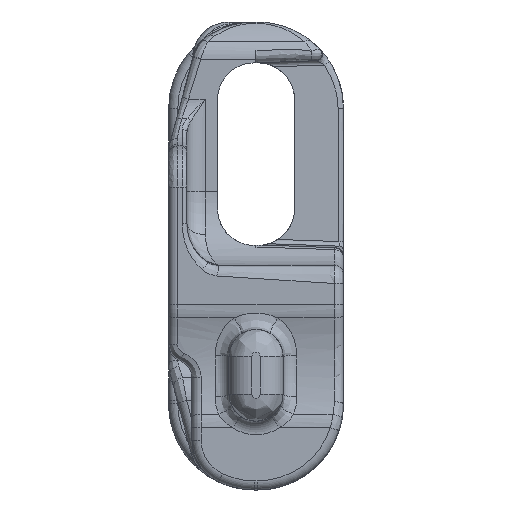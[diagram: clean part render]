
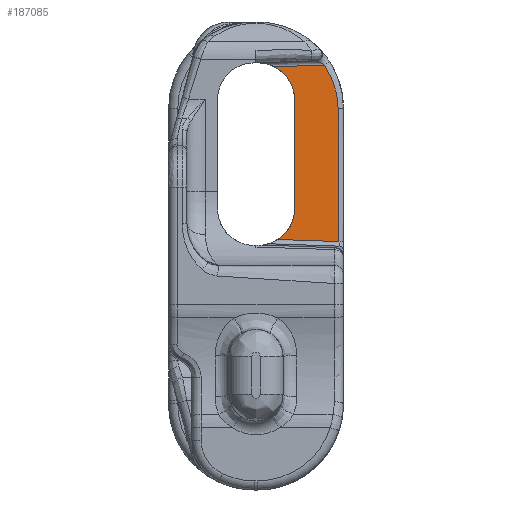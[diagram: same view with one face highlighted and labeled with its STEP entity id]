
A CAD part, left-side view. The second image highlights one B-rep face of the part: STEP entity #187085.
In plain terms, the highlighted planar face has unit normal (-0.999, -0.035, 0).
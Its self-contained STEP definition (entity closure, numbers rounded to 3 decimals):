
#52898=CARTESIAN_POINT('',(-163.38,-2.004,
22.62));
#55106=DIRECTION('',(0.,0.,1.));
#55107=VECTOR('',#55106,11.9);
#55108=CARTESIAN_POINT('',(-163.303,-4.2,
7.15));
#55109=LINE('',#55108,#55107);
#55110=CARTESIAN_POINT('',(-163.303,-4.2,
19.05));
#55111=CARTESIAN_POINT('',(-163.303,-4.2,
19.164));
#55112=CARTESIAN_POINT('',(-163.304,-4.19,
19.39));
#55113=CARTESIAN_POINT('',(-163.305,-4.147,
19.727));
#55114=CARTESIAN_POINT('',(-163.308,-4.076,
20.059));
#55115=CARTESIAN_POINT('',(-163.311,-3.976,
20.384));
#55116=CARTESIAN_POINT('',(-163.316,-3.85,
20.699));
#55117=CARTESIAN_POINT('',(-163.321,-3.697,
21.002));
#55118=CARTESIAN_POINT('',(-163.327,-3.519,
21.291));
#55119=CARTESIAN_POINT('',(-163.334,-3.317,21.565));
#55120=CARTESIAN_POINT('',(-163.342,-3.093,
21.82));
#55121=CARTESIAN_POINT('',(-163.351,-2.848,
22.055));
#55122=CARTESIAN_POINT('',(-163.36,-2.584,
22.268));
#55123=CARTESIAN_POINT('',(-163.37,-2.302,
22.459));
#55124=CARTESIAN_POINT('',(-163.376,-2.105,
22.569));
#55125=CARTESIAN_POINT('',(-163.38,-2.004,
22.62));
#55127=DIRECTION('',(0.035,-0.999,0.035));
#55128=VECTOR('',#55127,5.475);
#55129=CARTESIAN_POINT('',(-163.38,-2.004,
22.62));
#55130=LINE('',#55129,#55128);
#55131=CARTESIAN_POINT('',(-163.189,-7.472,
22.811));
#55132=CARTESIAN_POINT('',(-163.173,-7.928,
22.115));
#55133=CARTESIAN_POINT('',(-163.148,-8.658,
20.601));
#55134=CARTESIAN_POINT('',(-163.138,-8.939,
18.936));
#55135=CARTESIAN_POINT('',(-163.137,-8.952,
18.1));
#55137=CARTESIAN_POINT('',(-163.137,-8.952,
18.1));
#55138=CARTESIAN_POINT('',(-163.136,-8.987,
15.68));
#55139=CARTESIAN_POINT('',(-163.134,-9.039,
10.839));
#55140=CARTESIAN_POINT('',(-163.134,-9.043,
5.998));
#55141=CARTESIAN_POINT('',(-163.134,-9.042,
3.578));
#55143=DIRECTION('',(-0.035,0.999,0.034));
#55144=VECTOR('',#55143,6.661);
#55145=CARTESIAN_POINT('',(-163.134,-9.042,
3.578));
#55146=LINE('',#55145,#55144);
#55147=CARTESIAN_POINT('',(-163.367,-2.389,
3.802));
#55148=CARTESIAN_POINT('',(-163.363,-2.49,
3.868));
#55149=CARTESIAN_POINT('',(-163.356,-2.685,
4.008));
#55150=CARTESIAN_POINT('',(-163.347,-2.958,
4.245));
#55151=CARTESIAN_POINT('',(-163.338,-3.208,
4.505));
#55152=CARTESIAN_POINT('',(-163.33,-3.434,
4.786));
#55153=CARTESIAN_POINT('',(-163.323,-3.633,
5.087));
#55154=CARTESIAN_POINT('',(-163.317,-3.805,
5.405));
#55155=CARTESIAN_POINT('',(-163.312,-3.948,
5.736));
#55156=CARTESIAN_POINT('',(-163.308,-4.06,
6.079));
#55157=CARTESIAN_POINT('',(-163.305,-4.14,
6.431));
#55158=CARTESIAN_POINT('',(-163.304,-4.189,
6.789));
#55159=CARTESIAN_POINT('',(-163.303,-4.2,
7.029));
#55160=CARTESIAN_POINT('',(-163.303,-4.2,
7.15));
#55166=CARTESIAN_POINT('',(-163.137,-8.952,
18.1));
#55168=CARTESIAN_POINT('',(-163.189,-7.472,
22.811));
#55176=CARTESIAN_POINT('',(-163.134,-9.042,
3.578));
#69993=CARTESIAN_POINT('',(-163.303,-4.2,
19.05));
#69994=VERTEX_POINT('',#69993);
#69995=CARTESIAN_POINT('',(-163.303,-4.2,
7.15));
#69996=VERTEX_POINT('',#69995);
#70605=VERTEX_POINT('',#52898);
#70868=VERTEX_POINT('',#55168);
#70869=VERTEX_POINT('',#55166);
#70870=VERTEX_POINT('',#55176);
#75025=VERTEX_POINT('',#55147);
#187067=CARTESIAN_POINT('',(-163.45,0.,24.41));
#187068=DIRECTION('',(0.999,0.035,0.));
#187069=DIRECTION('',(0.,0.,-1.));
#187070=AXIS2_PLACEMENT_3D('',#187067,#187068,#187069);
#187071=PLANE('',#187070);
#187072=ORIENTED_EDGE('',*,*,#186968,.T.);
#187073=ORIENTED_EDGE('',*,*,#183555,.T.);
#187074=ORIENTED_EDGE('',*,*,#183540,.T.);
#187076=ORIENTED_EDGE('',*,*,#187075,.T.);
#187078=ORIENTED_EDGE('',*,*,#187077,.T.);
#187080=ORIENTED_EDGE('',*,*,#187079,.T.);
#187082=ORIENTED_EDGE('',*,*,#187081,.T.);
#187083=EDGE_LOOP('',(#187072,#187073,#187074,#187076,#187078,#187080,#187082));
#187084=FACE_OUTER_BOUND('',#187083,.F.);
#187085=ADVANCED_FACE('',(#187084),#187071,.F.);
#55126=B_SPLINE_CURVE_WITH_KNOTS('',3,(#55110,#55111,#55112,#55113,#55114,
#55115,#55116,#55117,#55118,#55119,#55120,#55121,#55122,#55123,#55124,#55125),
.UNSPECIFIED.,.F.,.F.,(4,1,1,1,1,1,1,1,1,1,1,1,1,4),(0.,0.077,
0.154,0.231,0.308,0.385,
0.462,0.538,0.615,0.692,
0.769,0.846,0.923,1.),.UNSPECIFIED.);
#55136=B_SPLINE_CURVE_WITH_KNOTS('',3,(#55131,#55132,#55133,#55134,#55135),
.UNSPECIFIED.,.F.,.F.,(4,1,4),(0.,0.5,1.),.UNSPECIFIED.);
#55142=B_SPLINE_CURVE_WITH_KNOTS('',3,(#55137,#55138,#55139,#55140,#55141),
.UNSPECIFIED.,.F.,.F.,(4,1,4),(0.,0.5,1.),.UNSPECIFIED.);
#55161=B_SPLINE_CURVE_WITH_KNOTS('',3,(#55147,#55148,#55149,#55150,#55151,
#55152,#55153,#55154,#55155,#55156,#55157,#55158,#55159,#55160),.UNSPECIFIED.,
.F.,.F.,(4,1,1,1,1,1,1,1,1,1,1,4),(0.,0.091,0.182,
0.273,0.364,0.455,0.545,
0.636,0.727,0.818,0.909,1.),
.UNSPECIFIED.);
#183540=EDGE_CURVE('',#70605,#70868,#55130,.T.);
#183555=EDGE_CURVE('',#69994,#70605,#55126,.T.);
#186968=EDGE_CURVE('',#69996,#69994,#55109,.T.);
#187075=EDGE_CURVE('',#70868,#70869,#55136,.T.);
#187077=EDGE_CURVE('',#70869,#70870,#55142,.T.);
#187079=EDGE_CURVE('',#70870,#75025,#55146,.T.);
#187081=EDGE_CURVE('',#75025,#69996,#55161,.T.);
